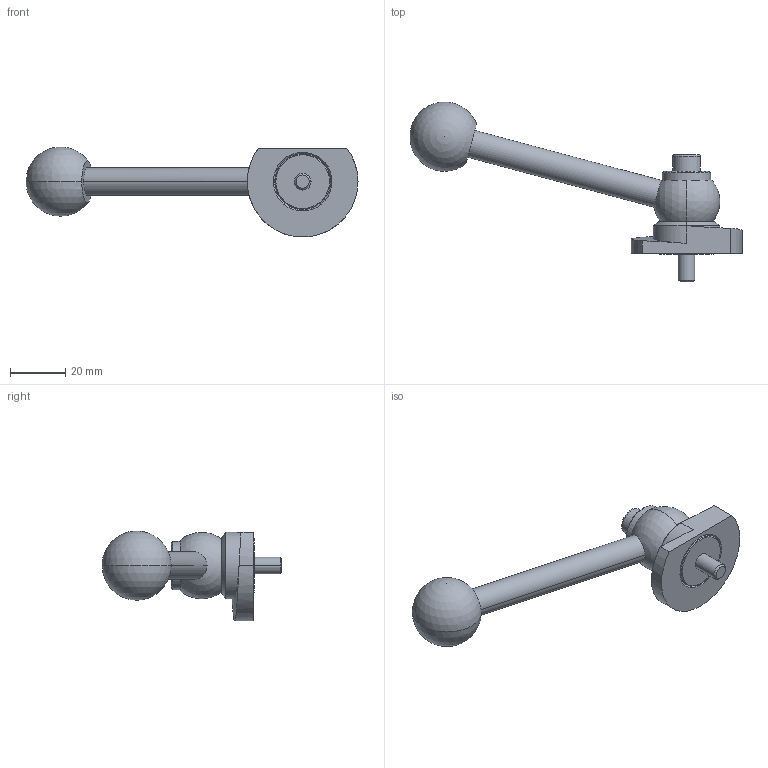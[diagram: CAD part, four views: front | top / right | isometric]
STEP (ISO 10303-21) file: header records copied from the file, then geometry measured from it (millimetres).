
FILE_DESCRIPTION (( 'STEP AP214' ), '1' );
FILE_NAME ('918.1-40-KVS-L-10.step', '2024-05-15T12:59:57', ( '' ), ( '' ), 'SwSTEP 2.0', 'SolidWorks 2022', '' );
FILE_SCHEMA (( 'AUTOMOTIVE_DESIGN' ));
Length unit declared in the file: millimetre
Products named in the file (1): 918.1-40-KVS-L-10
Bounding box: 119.95 x 64.99 x 32.5 mm (x, y, z)
Volume: 30033 mm3; surface area: 11024.5 mm2
Topology: 1 solids, 1 shells, 62 faces, 141 edges, 89 vertices
Faces by surface type: plane 20, cylinder 19, cone 14, sphere 4, bspline 3, torus 2
Entity records: 2003 total; most frequent: CARTESIAN_POINT 614, DIRECTION 304, ORIENTED_EDGE 262, EDGE_CURVE 131, AXIS2_PLACEMENT_3D 125, VERTEX_POINT 83, EDGE_LOOP 74, CIRCLE 65
